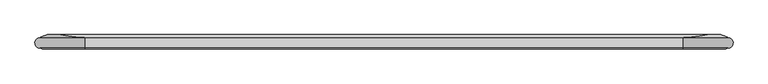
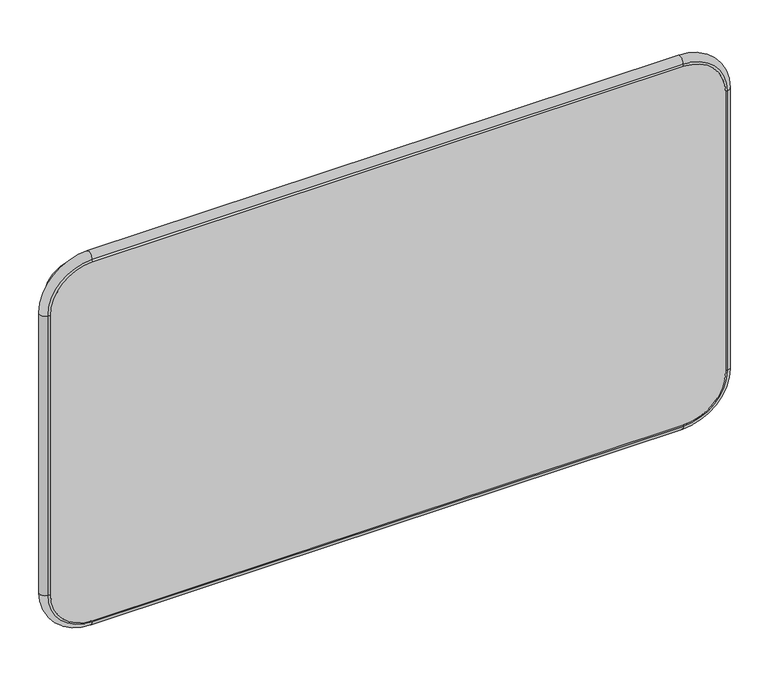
"""IFC4 building model written with IfcOpenShell, lengths in millimetres: proxy geometry, CAMBRIDGE^TABLE 2_4884 Rect-TOP SOLID."""

import ifcopenshell
import ifcopenshell.guid

model = None  # the IFC model being written
_history = None  # IfcOwnerHistory: only IFC2X3 demands one
_inside = {}  # id of a spatial element -> (the spatial element, [elements in it])
_under = {}  # id of a project, library or spatial element -> (it, [spatial elements below it])
_declared = {}  # id of a project -> (the project, [libraries it declares])
_typed = {}  # id of a type object -> (the type object, [elements of that type])
_made_of = {}  # id of a material, layer set ... -> (it, [elements and type objects made of it])


def new_model(schema):
    """Start an empty IFC model of exactly this schema.

    Asked for "IFC4X3", IfcOpenShell would pick the latest addendum, in which some entities
    have other attributes; the version numbers below select the first issue.
    IFC2X3 requires an IfcOwnerHistory on every rooted entity: one is made here for all.
    """
    global model, _history
    if schema == "IFC4X3":
        model = ifcopenshell.file(schema_version=(4, 3, 0, 0))
    else:
        model = ifcopenshell.file(schema=schema)
    _inside.clear()
    _under.clear()
    _declared.clear()
    _typed.clear()
    _made_of.clear()
    _history = None
    if model.schema == "IFC2X3":
        org = make("IfcOrganization", Name="unknown")
        user = make(
            "IfcPersonAndOrganization",
            ThePerson=make("IfcPerson", FamilyName="unknown"),
            TheOrganization=org,
        )
        app = make(
            "IfcApplication",
            ApplicationDeveloper=org,
            Version="unknown",
            ApplicationFullName="unknown",
            ApplicationIdentifier="unknown",
        )
        _history = make(
            "IfcOwnerHistory",
            OwningUser=user,
            OwningApplication=app,
            ChangeAction="ADDED",
            CreationDate=0,
        )
    return model


def make(cls, **values):
    """One entity of the class cls with the attributes given. An attribute that is None is left unset."""
    return model.create_entity(
        cls, **{name: value for name, value in values.items() if value is not None}
    )


def rooted(cls, **values):
    """An entity with a GlobalId (a new one), such as an element, a storey or a relation."""
    return make(cls, GlobalId=ifcopenshell.guid.new(), OwnerHistory=_history, **values)


def si_unit(unit_type, name, prefix=None):
    """IfcSIUnit, for example si_unit("LENGTHUNIT", "METRE", prefix="MILLI")."""
    return make("IfcSIUnit", UnitType=unit_type, Prefix=prefix, Name=name)


def assignment(units):
    """IfcUnitAssignment: the units of a project."""
    return None if units is None else make("IfcUnitAssignment", Units=units)


def point(xyz):
    """IfcCartesianPoint."""
    return None if xyz is None else make("IfcCartesianPoint", Coordinates=xyz)


def direction(xyz):
    """IfcDirection."""
    return None if xyz is None else make("IfcDirection", DirectionRatios=xyz)


def frame(location, z_axis=None, x_axis=None):
    """IfcAxis2Placement3D, a coordinate frame: its origin and axes. An axis left out is left unset."""
    return make(
        "IfcAxis2Placement3D",
        Location=point(location),
        Axis=direction(z_axis),
        RefDirection=direction(x_axis),
    )


def origin():
    """The frame at (0, 0, 0) with its axes left unset."""
    return frame((0.0, 0.0, 0.0))


def place(relative_to, where):
    """IfcLocalPlacement: puts the frame where relative to a parent placement (None: the world)."""
    return make(
        "IfcLocalPlacement", PlacementRelTo=relative_to, RelativePlacement=where
    )


def context(
    kind, dimensions, precision=None, world=None, true_north=None, identifier=None
):
    """IfcGeometricRepresentationContext, for example the 3D "Model" context."""
    return make(
        "IfcGeometricRepresentationContext",
        ContextIdentifier=identifier,
        ContextType=kind,
        CoordinateSpaceDimension=dimensions,
        Precision=precision,
        WorldCoordinateSystem=world,
        TrueNorth=true_north,
    )


def project(units=None, contexts=None):
    """IfcProject with its units and contexts."""
    return rooted(
        "IfcProject",
        Name="project",
        RepresentationContexts=contexts,
        UnitsInContext=assignment(units),
    )


def spatial(cls, under=None, at=None, **own):
    """A site, building, storey or space (cls), placed at a placement, below another one or the project."""
    s = rooted(cls, ObjectPlacement=at, **own)
    if under is not None:
        _under.setdefault(under.id(), (under, []))[1].append(s)
    return s


def polyline(points):
    """IfcPolyline through the points."""
    return make("IfcPolyline", Points=[point(p) for p in points])


def circle_curve(where, radius):
    """IfcCircle in the frame where."""
    return make("IfcCircle", Position=where, Radius=radius)


def ellipse_curve(where, semi_axis1, semi_axis2):
    """IfcEllipse in the frame where."""
    return make(
        "IfcEllipse", Position=where, SemiAxis1=semi_axis1, SemiAxis2=semi_axis2
    )


def trimmed(basis, trim1, trim2, sense, master):
    """IfcTrimmedCurve: the piece of a basis curve between two trims."""
    return make(
        "IfcTrimmedCurve",
        BasisCurve=basis,
        Trim1=trim1,
        Trim2=trim2,
        SenseAgreement=sense,
        MasterRepresentation=master,
    )


def shape(context_of_items, identifier, shape_type, items):
    """IfcShapeRepresentation: the items that make up one representation, for example the "Body"."""
    return make(
        "IfcShapeRepresentation",
        ContextOfItems=context_of_items,
        RepresentationIdentifier=identifier,
        RepresentationType=shape_type,
        Items=items,
    )


def source(mapping_origin, context_of_items, identifier, shape_type, items):
    """IfcRepresentationMap: a shape defined once, which mapped items show again and again."""
    return make(
        "IfcRepresentationMap",
        MappingOrigin=mapping_origin,
        MappedRepresentation=shape(context_of_items, identifier, shape_type, items),
    )


def transform(
    local_origin,
    x_axis=None,
    y_axis=None,
    z_axis=None,
    scale=None,
    scale2=None,
    scale3=None,
    uniform=True,
):
    """IfcCartesianTransformationOperator3D, or its non-uniform kind. x_axis, y_axis, z_axis: its Axis1, 2, 3."""
    if uniform:
        return make(
            "IfcCartesianTransformationOperator3D",
            Axis1=direction(x_axis),
            Axis2=direction(y_axis),
            LocalOrigin=point(local_origin),
            Scale=scale,
            Axis3=direction(z_axis),
        )
    return make(
        "IfcCartesianTransformationOperator3DnonUniform",
        Axis1=direction(x_axis),
        Axis2=direction(y_axis),
        LocalOrigin=point(local_origin),
        Scale=scale,
        Axis3=direction(z_axis),
        Scale2=scale2,
        Scale3=scale3,
    )


def mapped(mapping_source, mapping_target):
    """IfcMappedItem: shows the shape of a source again, moved by a transform."""
    return make(
        "IfcMappedItem", MappingSource=mapping_source, MappingTarget=mapping_target
    )


def made_of(thing, what):
    """Note that an element or type object is made of a material, layer set ...; save() writes the relation."""
    if what is not None:
        _made_of.setdefault(what.id(), (what, []))[1].append(thing)
    return thing


def element(
    cls,
    number,
    at=None,
    inside=None,
    cuts=None,
    type_object=None,
    material=None,
    context=None,
    identifier="Body",
    shape_type=None,
    held_by="IfcProductDefinitionShape",
    body=None,
    shapes=None,
    **own,
):
    """One element of the class cls, such as IfcWall. Its Tag is "e" and its number.

    at: its placement. inside: the storey or other place that contains it. cuts: it is an
    opening in that element (IfcRelVoidsElement). A single representation is given by context,
    identifier, shape_type and body (its items); several are given by shapes. held_by: the class
    of the entity that holds the representations. save() writes the other relations.
    """
    e = rooted(cls, Tag="e%d" % number, ObjectPlacement=at, **own)
    if body is not None:
        shapes = [shape(context, identifier, shape_type, body)]
    if shapes is not None:
        e.Representation = make(held_by, Representations=shapes)
    if inside is not None:
        _inside.setdefault(inside.id(), (inside, []))[1].append(e)
    if cuts is not None:
        rooted(
            "IfcRelVoidsElement", RelatingBuildingElement=cuts, RelatedOpeningElement=e
        )
    if type_object is not None:
        _typed.setdefault(type_object.id(), (type_object, []))[1].append(e)
    return made_of(e, material)


def aggregate(whole, parts):
    """IfcRelAggregates: a whole, such as a stair, and the parts it consists of."""
    return rooted("IfcRelAggregates", RelatingObject=whole, RelatedObjects=parts)


def save(model, path):
    """Write the relations noted so far, then the file.

    IfcRelAggregates (storeys below a building ...), IfcRelContainedInSpatialStructure (elements
    in a storey), IfcRelDefinesByType, IfcRelAssociatesMaterial and IfcRelDeclares: one each for
    every whole, place, type object, material and project.
    """
    for whole, parts in _under.values():
        aggregate(whole, parts)
    for where, things in _inside.values():
        rooted(
            "IfcRelContainedInSpatialStructure",
            RelatedElements=things,
            RelatingStructure=where,
        )
    for kind, things in _typed.values():
        rooted("IfcRelDefinesByType", RelatedObjects=things, RelatingType=kind)
    for what, things in _made_of.values():
        rooted("IfcRelAssociatesMaterial", RelatedObjects=things, RelatingMaterial=what)
    for by, libraries in _declared.values():
        rooted("IfcRelDeclares", RelatingContext=by, RelatedDefinitions=libraries)
    model.write(path)


def plane_surface(at):
    """IfcPlane: the flat surface through the origin of the frame at, square to its z axis."""
    return make("IfcPlane", Position=at)


def cylinder_surface(at, radius):
    """IfcCylindricalSurface: all points at the distance radius from the z axis of the frame at."""
    return make("IfcCylindricalSurface", Position=at, Radius=radius)


def revolved_surface(curve, axis_point, axis_direction):
    """IfcSurfaceOfRevolution: the curve turned about the line through axis_point along axis_direction."""
    return make(
        "IfcSurfaceOfRevolution",
        SweptCurve=make("IfcArbitraryOpenProfileDef", ProfileType="CURVE", Curve=curve),
        AxisPosition=make("IfcAxis1Placement", Location=point(axis_point), Axis=direction(axis_direction)),
    )


def advanced_brep(points, edges, surfaces, faces):
    """IfcAdvancedBrep: a solid bounded by faces that lie on surfaces and meet in shared edges.

    An edge is (start, end): straight between two places in points (the first is 0);
    or (start, end, curve); or (start, end, curve, False) where it runs against its curve.
    A face is (place in surfaces, loops), or (place, loops, False) where it looks against
    its surface's normal. A loop lists edges by number (the first is 1), with a minus sign
    where the edge is run from its end to its start. The first loop is the outer one.
    """
    corners = [point(p) for p in points]
    vertices = [make("IfcVertexPoint", VertexGeometry=c) for c in corners]
    made = []
    for start, end, *more in edges:
        made.append(
            make(
                "IfcEdgeCurve",
                EdgeStart=vertices[start],
                EdgeEnd=vertices[end],
                EdgeGeometry=more[0] if more else make("IfcPolyline", Points=[corners[start], corners[end]]),
                SameSense=more[1] if len(more) > 1 else True,
            )
        )
    hull = []
    for where, loops, *sense in faces:
        bounds = []
        for j, loop in enumerate(loops):
            ring = [make("IfcOrientedEdge", EdgeElement=made[abs(k) - 1], Orientation=k > 0) for k in loop]
            bounds.append(
                make(
                    "IfcFaceOuterBound" if j == 0 else "IfcFaceBound",
                    Bound=make("IfcEdgeLoop", EdgeList=ring),
                    Orientation=True,
                )
            )
        hull.append(make("IfcAdvancedFace", Bounds=bounds, FaceSurface=surfaces[where], SameSense=sense[0] if sense else True))
    return make("IfcAdvancedBrep", Outer=make("IfcClosedShell", CfsFaces=hull))


def generic_models_7e756234(model_context):
    return source(origin(), model_context, "Body", "AdvancedBrep", [
        advanced_brep(
        [(152.4, -12.7, -22.9617613), (22.9617613, -12.7, -152.4), (22.9617613, -12.7, -1066.8), (152.4, -12.7, -1196.2382387), (1981.2, -12.7, -1196.2382387), (2110.6382387, -12.7, -1066.8), (2110.6382387, -12.7, -152.4), (1981.2, -12.7, -22.9617613), (2095.7609266, 31.75, -78.1378312), (2095.7609266, 31.75, -1141.0621688), (2055.4621688, 31.75, -1181.3609266), (78.1378312, 31.75, -1181.3609266), (37.8390734, 31.75, -1141.0621688), (37.8390734, 31.75, -78.1378312), (78.1378312, 31.75, -37.8390734), (2055.4621688, 31.75, -37.8390734), (2117.725, 23.7557311, -152.4), (2117.725, 23.7557311, -1066.8), (1981.2, 23.7557311, -15.875), (1981.2, 22.1682311, -15.875), (2117.725, 22.1682311, -152.4), (152.4, 23.7557311, -15.875), (1981.2, 23.7557311, -1203.325), (152.4, 23.7557311, -1203.325), (2117.725, 22.1682311, -1066.8), (1981.2, 22.1682311, -1203.325), (15.875, 23.7557311, -1066.8), (15.875, 23.7557311, -152.4), (152.4, 22.1682311, -1203.325), (15.875, 22.1682311, -1066.8), (15.875, 22.1682311, -152.4), (152.4, 22.1682311, -15.875), (17.0089286, -9.5412197, -152.4), (152.4, -9.5412197, -17.0089286), (17.0089286, -9.5412197, -1066.8), (152.4, -9.5412197, -1202.1910714), (1981.2, -9.5412197, -1202.1910714), (2116.5910714, -9.5412197, -1066.8), (2116.5910714, -9.5412197, -152.4), (1981.2, -9.5412197, -17.0089286)],
        [
            (0, 1, circle_curve(frame((152.4, -12.7, -152.4), z_axis=(0.0, -1.0, 0.0), x_axis=(-1.0, 0.0, 0.0)), 129.4382387)),
            (1, 2),
            (2, 3, circle_curve(frame((152.4, -12.7, -1066.8), z_axis=(0.0, -1.0, 0.0), x_axis=(0.0, 0.0, -1.0)), 129.4382387)),
            (3, 4),
            (4, 5, circle_curve(frame((1981.2, -12.7, -1066.8), z_axis=(0.0, -1.0, 0.0), x_axis=(1.0, 0.0, 0.0)), 129.4382387)),
            (5, 6),
            (6, 7, circle_curve(frame((1981.2, -12.7, -152.4), z_axis=(0.0, -1.0, 0.0), x_axis=(0.0, 0.0, 1.0)), 129.4382387)),
            (7, 0),
            (8, 9),
            (9, 10, circle_curve(frame((1981.2, 31.75, -1066.8), z_axis=(0.0, 1.0, 0.0), x_axis=(1.0, 0.0, 0.0)), 136.525)),
            (10, 11),
            (11, 12, circle_curve(frame((152.4, 31.75, -1066.8), z_axis=(0.0, 1.0, 0.0), x_axis=(0.0, 0.0, -1.0)), 136.525)),
            (12, 13),
            (13, 14, circle_curve(frame((152.4, 31.75, -152.4), z_axis=(0.0, 1.0, 0.0), x_axis=(-1.0, 0.0, 0.0)), 136.525)),
            (14, 15),
            (15, 8, circle_curve(frame((1981.2, 31.75, -152.4), z_axis=(0.0, 1.0, 0.0), x_axis=(0.0, 0.0, 1.0)), 136.525)),
            (8, 16, ellipse_curve(frame((1981.2, 73.4467673, -152.4), z_axis=(0.34202014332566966, 0.9396926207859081, 0.0), x_axis=(-0.9396926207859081, 0.34202014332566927, 0.0)), 145.2868704, 136.525)),
            (16, 17),
            (17, 9, ellipse_curve(frame((1981.2, 73.4467673, -1066.8), z_axis=(0.34202014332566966, 0.9396926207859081, 0.0), x_axis=(-0.9396926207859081, 0.34202014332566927, 0.0)), 145.2868704, 136.525)),
            (15, 18, ellipse_curve(frame((1981.2, 73.4467673, -152.4), z_axis=(0.0, -0.9396926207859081, -0.34202014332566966), x_axis=(0.0, 0.34202014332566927, -0.9396926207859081)), 145.2868704, 136.525)),
            (18, 19),
            (19, 20, circle_curve(frame((1981.2, 22.1682311, -152.4), z_axis=(0.0, 1.0, 0.0), x_axis=(0.0, 0.0, 1.0)), 136.525)),
            (20, 16),
            (14, 21, ellipse_curve(frame((152.4, 73.4467673, -152.4), z_axis=(0.0, 0.9396926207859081, 0.34202014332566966), x_axis=(0.0, 0.34202014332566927, -0.9396926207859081)), 145.2868704, 136.525)),
            (21, 18),
            (10, 22, ellipse_curve(frame((1981.2, 73.4467673, -1066.8), z_axis=(0.0, 0.9396926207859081, -0.34202014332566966), x_axis=(0.0, 0.34202014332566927, 0.9396926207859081)), 145.2868704, 136.525)),
            (22, 23),
            (23, 11, ellipse_curve(frame((152.4, 73.4467673, -1066.8), z_axis=(0.0, 0.9396926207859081, -0.34202014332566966), x_axis=(0.0, 0.34202014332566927, 0.9396926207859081)), 145.2868704, 136.525)),
            (17, 24),
            (24, 25, circle_curve(frame((1981.2, 22.1682311, -1066.8), z_axis=(0.0, 1.0, 0.0), x_axis=(1.0, 0.0, 0.0)), 136.525)),
            (25, 22),
            (12, 26, ellipse_curve(frame((152.4, 73.4467673, -1066.8), z_axis=(-0.34202014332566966, 0.9396926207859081, 0.0), x_axis=(0.9396926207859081, 0.34202014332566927, 0.0)), 145.2868704, 136.525)),
            (26, 27),
            (27, 13, ellipse_curve(frame((152.4, 73.4467673, -152.4), z_axis=(-0.34202014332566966, 0.9396926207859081, 0.0), x_axis=(0.9396926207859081, 0.34202014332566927, 0.0)), 145.2868704, 136.525)),
            (23, 28),
            (28, 29, circle_curve(frame((152.4, 22.1682311, -1066.8), z_axis=(0.0, 1.0, 0.0), x_axis=(0.0, 0.0, -1.0)), 136.525)),
            (29, 26),
            (27, 30),
            (30, 31, circle_curve(frame((152.4, 22.1682311, -152.4), z_axis=(0.0, 1.0, 0.0), x_axis=(-1.0, 0.0, 0.0)), 136.525)),
            (31, 21),
            (32, 1, circle_curve(frame((17.4625, -15.875, -152.4), z_axis=(0.0, 0.0, -1.0), x_axis=(-1.0, 0.0, 0.0)), 6.35)),
            (0, 33, circle_curve(frame((152.4, -15.875, -17.4625), z_axis=(1.0, 0.0, 0.0), x_axis=(0.0, 0.0, 1.0)), 6.35)),
            (33, 32, circle_curve(frame((152.4, -9.5412197, -152.4), z_axis=(0.0, -1.0, 0.0), x_axis=(-1.0, 0.0, 0.0)), 135.3910714)),
            (30, 32, circle_curve(frame((15.875, 6.2932311, -152.4), z_axis=(0.0, 0.0, 1.0), x_axis=(-1.0, 0.0, 0.0)), 15.875)),
            (33, 31, circle_curve(frame((152.4, 6.2932311, -15.875), z_axis=(-1.0, 0.0, 0.0), x_axis=(0.0, 0.0, 1.0)), 15.875)),
            (34, 2, circle_curve(frame((17.4625, -15.875, -1066.8), z_axis=(0.0, 0.0, -1.0), x_axis=(0.8660254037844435, 0.49999999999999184, 0.0)), 6.35)),
            (32, 34),
            (29, 34, circle_curve(frame((15.875, 6.2932311, -1066.8), z_axis=(0.0, 0.0, 1.0), x_axis=(-0.9993612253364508, -0.035737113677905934, 0.0)), 15.875)),
            (30, 29),
            (35, 3, circle_curve(frame((152.4, -15.875, -1201.7375), z_axis=(1.0, 0.0, 0.0), x_axis=(0.0, 0.0, -1.0)), 6.35)),
            (34, 35, circle_curve(frame((152.4, -9.5412197, -1066.8), z_axis=(0.0, -1.0, 0.0), x_axis=(0.0, 0.0, -1.0)), 135.3910714)),
            (28, 35, circle_curve(frame((152.4, 6.2932311, -1203.325), z_axis=(-1.0, 0.0, 0.0), x_axis=(0.0, 0.0, -1.0)), 15.875)),
            (36, 4, circle_curve(frame((1981.2, -15.875, -1201.7375), z_axis=(1.0, 0.0, 0.0), x_axis=(0.0, 0.49999999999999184, 0.8660254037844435)), 6.35)),
            (35, 36),
            (25, 36, circle_curve(frame((1981.2, 6.2932311, -1203.325), z_axis=(-1.0, 0.0, 0.0), x_axis=(0.0, -0.03573711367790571, -0.9993612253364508)), 15.875)),
            (28, 25),
            (37, 5, circle_curve(frame((2116.1375, -15.875, -1066.8), z_axis=(0.0, 0.0, 1.0), x_axis=(1.0, 0.0, 0.0)), 6.35)),
            (36, 37, circle_curve(frame((1981.2, -9.5412197, -1066.8), z_axis=(0.0, -1.0, 0.0), x_axis=(1.0, 0.0, 0.0)), 135.3910714)),
            (24, 37, circle_curve(frame((2117.725, 6.2932311, -1066.8), z_axis=(0.0, 0.0, -1.0), x_axis=(1.0, 0.0, 0.0)), 15.875)),
            (38, 6, circle_curve(frame((2116.1375, -15.875, -152.4), z_axis=(0.0, 0.0, 1.0), x_axis=(-0.8660254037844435, 0.49999999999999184, 0.0)), 6.35)),
            (37, 38),
            (20, 38, circle_curve(frame((2117.725, 6.2932311, -152.4), z_axis=(0.0, 0.0, -1.0), x_axis=(0.999361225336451, -0.03573711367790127, 0.0)), 15.875)),
            (24, 20),
            (39, 7, circle_curve(frame((1981.2, -15.875, -17.4625), z_axis=(-1.0, 0.0, 0.0), x_axis=(0.0, 0.0, 1.0)), 6.35)),
            (38, 39, circle_curve(frame((1981.2, -9.5412197, -152.4), z_axis=(0.0, -1.0, 0.0), x_axis=(0.0, 0.0, 1.0)), 135.3910714)),
            (19, 39, circle_curve(frame((1981.2, 6.2932311, -15.875), z_axis=(1.0, 0.0, 0.0), x_axis=(0.0, 0.0, 1.0)), 15.875)),
            (39, 33),
            (19, 31),
        ],
        [
            plane_surface(frame((1066.8, -12.7, -609.6), z_axis=(0.0, -1.0, 0.0), x_axis=(0.0, 0.0, 1.0))),
            plane_surface(frame((1066.8, 31.75, -609.6), z_axis=(0.0, 1.0, 0.0), x_axis=(0.0, 0.0, 1.0))),
            plane_surface(frame((2117.725, 23.7557311, -152.4), z_axis=(0.34202014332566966, 0.9396926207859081, 0.0), x_axis=(-0.9396926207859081, 0.34202014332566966, 0.0))),
            cylinder_surface(frame((1981.2, 22.9619811, -152.4), z_axis=(0.0, 1.0, 0.0), x_axis=(0.0, 0.0, 1.0)), 136.525),
            plane_surface(frame((152.4, 23.7557311, -15.875), z_axis=(0.0, 0.9396926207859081, 0.34202014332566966), x_axis=(0.0, 0.34202014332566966, -0.9396926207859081))),
            plane_surface(frame((1981.2, 23.7557311, -1203.325), z_axis=(0.0, 0.9396926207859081, -0.34202014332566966), x_axis=(0.0, 0.34202014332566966, 0.9396926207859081))),
            cylinder_surface(frame((1981.2, 22.9619811, -1066.8), z_axis=(0.0, 1.0, 0.0), x_axis=(1.0, 0.0, 0.0)), 136.525),
            plane_surface(frame((15.875, 23.7557311, -1066.8), z_axis=(-0.34202014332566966, 0.9396926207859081, 0.0), x_axis=(0.9396926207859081, 0.34202014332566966, 0.0))),
            cylinder_surface(frame((152.4, 22.9619811, -1066.8), z_axis=(0.0, 1.0, 0.0), x_axis=(0.0, 0.0, -1.0)), 136.525),
            cylinder_surface(frame((152.4, 22.9619811, -152.4), z_axis=(0.0, 1.0, 0.0), x_axis=(-1.0, 0.0, 0.0)), 136.525),
            revolved_surface(trimmed(ellipse_curve(frame((17.4625, -15.875, -152.4), z_axis=(0.0, 0.0, 1.0), x_axis=(-1.0, 0.0, 0.0)), 6.35, 6.35), [point((22.9617613, -12.7, -152.4))], [point((17.0089286, -9.5412197, -152.4))], True, "CARTESIAN"), (152.4, -15.875, -152.4), (0.0, 1.0, 0.0)),
            revolved_surface(trimmed(ellipse_curve(frame((15.875, 6.2932311, -152.4), z_axis=(0.0, 0.0, -1.0), x_axis=(-1.0, 0.0, 0.0)), 15.875, 15.875), [point((17.0089286, -9.5412197, -152.4))], [point((15.875, 22.1682311, -152.4))], True, "CARTESIAN"), (152.4, 6.2932311, -152.4), (0.0, 1.0, 0.0)),
            revolved_surface(polyline([(22.961761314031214, -12.700000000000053, -152.39999999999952), (22.961761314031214, -12.700000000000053, -1066.8)]), (17.4625, -15.875, -1066.8), (0.0, 0.0, 1.0000000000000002)),
            cylinder_surface(frame((15.875, 6.2932311, -1066.8), z_axis=(0.0, 0.0, 0.9999999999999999), x_axis=(-0.9993612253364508, -0.035737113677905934, 0.0)), 15.875),
            revolved_surface(trimmed(ellipse_curve(frame((152.4, -15.875, -1201.7375), z_axis=(-1.0, 0.0, 0.0), x_axis=(0.0, 0.0, -1.0)), 6.35, 6.35), [point((152.4, -12.7, -1196.2382387))], [point((152.4, -9.5412197, -1202.1910714))], True, "CARTESIAN"), (152.4, -15.875, -1066.8), (0.0, 1.0, 0.0)),
            revolved_surface(trimmed(ellipse_curve(frame((152.4, 6.2932311, -1203.325), z_axis=(1.0, 0.0, 0.0), x_axis=(0.0, 0.0, -1.0)), 15.875, 15.875), [point((152.4, -9.5412197, -1202.1910714))], [point((152.4, 22.1682311, -1203.325))], True, "CARTESIAN"), (152.4, 6.2932311, -1066.8), (0.0, 1.0, 0.0)),
            revolved_surface(polyline([(152.39999999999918, -12.700000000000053, -1196.2382386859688), (1981.2, -12.700000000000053, -1196.2382386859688)]), (1981.2, -15.875, -1201.7375), (-1.0000000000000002, 0.0, 0.0)),
            cylinder_surface(frame((1981.2, 6.2932311, -1203.325), z_axis=(-0.9999999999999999, 0.0, 0.0), x_axis=(0.0, -0.03573711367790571, -0.9993612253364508)), 15.875),
            revolved_surface(trimmed(ellipse_curve(frame((2116.1375, -15.875, -1066.8), z_axis=(0.0, 0.0, -1.0), x_axis=(1.0, 0.0, 0.0)), 6.35, 6.35), [point((2110.6382387, -12.7, -1066.8))], [point((2116.5910714, -9.5412197, -1066.8))], True, "CARTESIAN"), (1981.2, -15.875, -1066.8), (0.0, 1.0, 0.0)),
            revolved_surface(trimmed(ellipse_curve(frame((2117.725, 6.2932311, -1066.8), z_axis=(0.0, 0.0, 1.0), x_axis=(1.0, 0.0, 0.0)), 15.875, 15.875), [point((2116.5910714, -9.5412197, -1066.8))], [point((2117.725, 22.1682311, -1066.8))], True, "CARTESIAN"), (1981.2, 6.2932311, -1066.8), (0.0, 1.0, 0.0)),
            revolved_surface(polyline([(2110.6382386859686, -12.700000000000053, -1066.8000000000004), (2110.6382386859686, -12.700000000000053, -152.4)]), (2116.1375, -15.875, -152.4), (0.0, 0.0, -1.0000000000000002)),
            cylinder_surface(frame((2117.725, 6.2932311, -152.4), z_axis=(0.0, 0.0, -1.0), x_axis=(0.999361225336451, -0.03573711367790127, 0.0)), 15.875),
            revolved_surface(trimmed(ellipse_curve(frame((1981.2, -15.875, -17.4625), z_axis=(1.0, 0.0, 0.0), x_axis=(0.0, 0.0, 1.0)), 6.35, 6.35), [point((1981.2, -12.7, -22.9617613))], [point((1981.2, -9.5412197, -17.0089286))], True, "CARTESIAN"), (1981.2, -15.875, -152.4), (0.0, 1.0, 0.0)),
            revolved_surface(trimmed(ellipse_curve(frame((1981.2, 6.2932311, -15.875), z_axis=(-1.0, 0.0, 0.0), x_axis=(0.0, 0.0, 1.0)), 15.875, 15.875), [point((1981.2, -9.5412197, -17.0089286))], [point((1981.2, 22.1682311, -15.875))], True, "CARTESIAN"), (1981.2, 6.2932311, -152.4), (0.0, 1.0, 0.0)),
            revolved_surface(polyline([(1981.200000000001, -12.700000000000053, -22.961761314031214), (152.4, -12.700000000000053, -22.961761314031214)]), (152.4, -15.875, -17.4625), (1.0000000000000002, 0.0, 0.0)),
            cylinder_surface(frame((152.4, 6.2932311, -15.875), z_axis=(0.9999999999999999, 0.0, 0.0), x_axis=(0.0, -0.03573711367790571, 0.9993612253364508)), 15.875),
            plane_surface(frame((15.875, 22.1682311, -1066.8), z_axis=(-1.0, 0.0, 0.0), x_axis=(0.0, 1.0, 0.0))),
            plane_surface(frame((1981.2, 22.1682311, -1203.325), z_axis=(0.0, 0.0, -1.0), x_axis=(0.0, 1.0, 0.0))),
            plane_surface(frame((2117.725, 22.1682311, -152.4), z_axis=(1.0, 0.0, 0.0), x_axis=(0.0, 1.0, 0.0))),
            plane_surface(frame((152.4, 22.1682311, -15.875), z_axis=(0.0, 0.0, 1.0), x_axis=(0.0, 1.0, 0.0))),
        ],
        [
            (0, [[1, 2, 3, 4, 5, 6, 7, 8]]),
            (1, [[9, 10, 11, 12, 13, 14, 15, 16]]),
            (2, [[17, 18, 19, -9]]),
            (3, [[-17, -16, 20, 21, 22, 23]]),
            (4, [[-20, -15, 24, 25]]),
            (5, [[26, 27, 28, -11]]),
            (6, [[-26, -10, -19, 29, 30, 31]]),
            (7, [[32, 33, 34, -13]]),
            (8, [[-32, -12, -28, 35, 36, 37]]),
            (9, [[-24, -14, -34, 38, 39, 40]]),
            (10, [[41, -1, 42, 43]]),
            (11, [[44, -43, 45, -39]]),
            (12, [[46, -2, -41, 47]]),
            (13, [[48, -47, -44, 49]]),
            (14, [[50, -3, -46, 51]]),
            (15, [[52, -51, -48, -36]]),
            (16, [[53, -4, -50, 54]]),
            (17, [[55, -54, -52, 56]]),
            (18, [[57, -5, -53, 58]]),
            (19, [[59, -58, -55, -30]]),
            (20, [[60, -6, -57, 61]]),
            (21, [[62, -61, -59, 63]]),
            (22, [[64, -7, -60, 65]]),
            (23, [[66, -65, -62, -22]]),
            (24, [[-42, -8, -64, 67]]),
            (25, [[-45, -67, -66, 68]]),
            (26, [[-37, -49, -38, -33]]),
            (27, [[-31, -56, -35, -27]]),
            (28, [[-23, -63, -29, -18]]),
            (29, [[-40, -68, -21, -25]]),
        ],
    ),
    ])


if __name__ == "__main__":
    model = new_model("IFC4")
    model_context = context("Model", 3, world=origin())
    ifc_project = project(units=[si_unit("LENGTHUNIT", "METRE", prefix="MILLI")], contexts=[model_context])
    site = spatial("IfcSite", under=ifc_project)
    building = spatial("IfcBuilding", under=site)
    placement = place(None, origin())
    generic_models_shape = generic_models_7e756234(model_context)
    element("IfcBuildingElementProxy", 1, Name="CAMBRIDGE^TABLE 2_4884 Rect-TOP SOLID", ObjectType="CAMBRIDGE^TABLE 2_4884 Rect-TOP SOLID", at=placement, inside=building, context=model_context, shape_type="MappedRepresentation", body=[
        mapped(generic_models_shape, transform((0.0, 0.0, 0.0), x_axis=(1.0, 0.0, 0.0), y_axis=(0.0, 1.0, 0.0), z_axis=(0.0, 0.0, 1.0))),
    ])
    save(model, "model.ifc")
